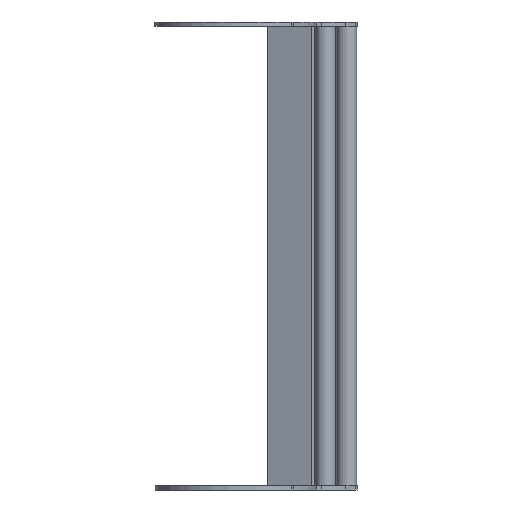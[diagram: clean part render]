
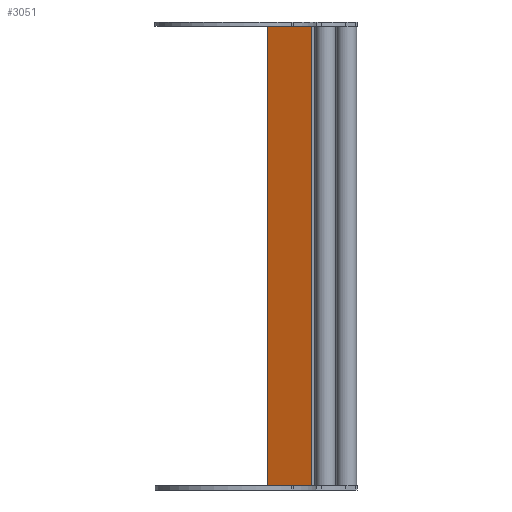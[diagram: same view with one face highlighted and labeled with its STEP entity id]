
A CAD part, front view. The second image highlights one B-rep face of the part: STEP entity #3051.
In plain terms, the highlighted planar face has unit normal (-0.342, -0.94, 0).
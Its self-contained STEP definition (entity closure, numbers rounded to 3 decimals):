
#236 = FACE_OUTER_BOUND ( 'NONE', #1531, .T. ) ;
#315 = ORIENTED_EDGE ( 'NONE', *, *, #3002, .T. ) ;
#437 = VECTOR ( 'NONE', #4080, 1000. ) ;
#490 = DIRECTION ( 'NONE',  ( 0.342, 0.94, 0. ) ) ;
#1017 = VERTEX_POINT ( 'NONE', #1414 ) ;
#1414 = CARTESIAN_POINT ( 'NONE',  ( 56.745, 61.65, -342. ) ) ;
#1415 = VERTEX_POINT ( 'NONE', #2151 ) ;
#1531 = EDGE_LOOP ( 'NONE', ( #4626, #5032, #2544, #315 ) ) ;
#1671 = DIRECTION ( 'NONE',  ( -0.94, 0.342, 0. ) ) ;
#1789 = VERTEX_POINT ( 'NONE', #4362 ) ;
#1873 = VERTEX_POINT ( 'NONE', #3685 ) ;
#2029 = LINE ( 'NONE', #4005, #2217 ) ;
#2074 = DIRECTION ( 'NONE',  ( 0., 0., 1. ) ) ;
#2151 = CARTESIAN_POINT ( 'NONE',  ( 23.4, 73.787, -342. ) ) ;
#2217 = VECTOR ( 'NONE', #2407, 1000. ) ;
#2302 = CARTESIAN_POINT ( 'NONE',  ( 56.745, 61.65, 0. ) ) ;
#2339 = VECTOR ( 'NONE', #2074, 1000. ) ;
#2407 = DIRECTION ( 'NONE',  ( 0., 0., 1. ) ) ;
#2458 = LINE ( 'NONE', #5223, #2339 ) ;
#2544 = ORIENTED_EDGE ( 'NONE', *, *, #4256, .F. ) ;
#3002 = EDGE_CURVE ( 'NONE', #1017, #1873, #2458, .T. ) ;
#3051 = ADVANCED_FACE ( 'NONE', ( #236 ), #4044, .F. ) ;
#3260 = CARTESIAN_POINT ( 'NONE',  ( 56.745, 61.65, -342. ) ) ;
#3615 = LINE ( 'NONE', #3260, #4759 ) ;
#3685 = CARTESIAN_POINT ( 'NONE',  ( 56.745, 61.65, 0. ) ) ;
#3959 = EDGE_CURVE ( 'NONE', #1415, #1789, #2029, .T. ) ;
#4005 = CARTESIAN_POINT ( 'NONE',  ( 23.4, 73.787, -342. ) ) ;
#4044 = PLANE ( 'NONE',  #4541 ) ;
#4080 = DIRECTION ( 'NONE',  ( -0.94, 0.342, 0. ) ) ;
#4256 = EDGE_CURVE ( 'NONE', #1017, #1415, #3615, .T. ) ;
#4362 = CARTESIAN_POINT ( 'NONE',  ( 23.4, 73.787, 0. ) ) ;
#4383 = LINE ( 'NONE', #2302, #437 ) ;
#4541 = AXIS2_PLACEMENT_3D ( 'NONE', #4876, #490, #1671 ) ;
#4596 = EDGE_CURVE ( 'NONE', #1873, #1789, #4383, .T. ) ;
#4626 = ORIENTED_EDGE ( 'NONE', *, *, #4596, .T. ) ;
#4759 = VECTOR ( 'NONE', #5240, 1000. ) ;
#4876 = CARTESIAN_POINT ( 'NONE',  ( 56.745, 61.65, -342. ) ) ;
#5032 = ORIENTED_EDGE ( 'NONE', *, *, #3959, .F. ) ;
#5223 = CARTESIAN_POINT ( 'NONE',  ( 56.745, 61.65, -342. ) ) ;
#5240 = DIRECTION ( 'NONE',  ( -0.94, 0.342, 0. ) ) ;
